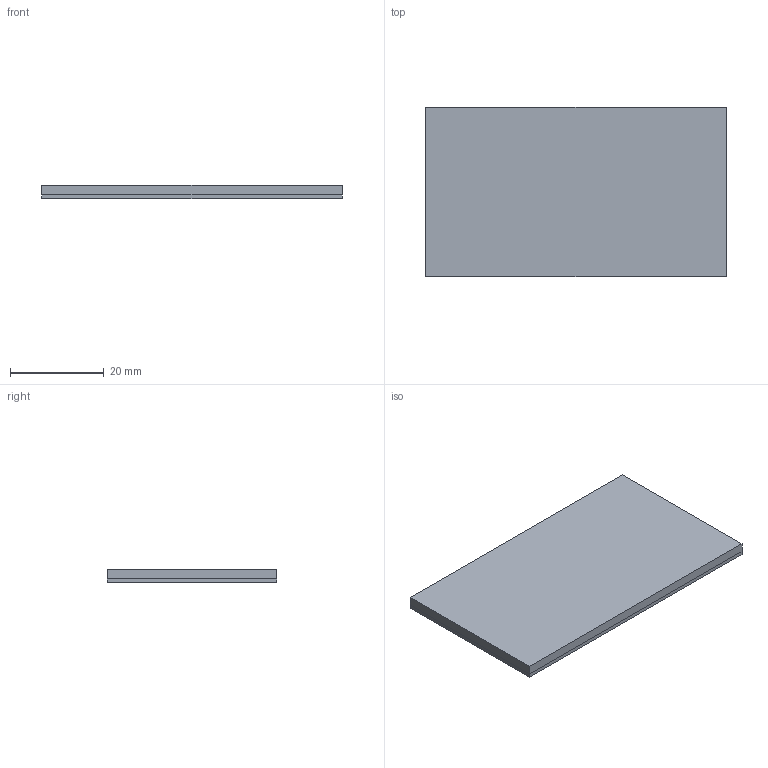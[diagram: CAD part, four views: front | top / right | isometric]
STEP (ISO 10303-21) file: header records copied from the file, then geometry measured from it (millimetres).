
FILE_DESCRIPTION(('Open CASCADE Model'),'2;1');
FILE_NAME('Open CASCADE Shape Model','2026-09-06T11:46:00',('Author'),( 'Open CASCADE'),'Open CASCADE STEP processor 7.7','Open CASCADE 7.7' ,'Unknown');
FILE_SCHEMA(('AUTOMOTIVE_DESIGN { 1 0 10303 214 1 1 1 1 }'));
Length unit declared in the file: millimetre
Products named in the file (6): C04_rear_letter_bond; R8_skin; R8_skin_part; R8_substrate; R8_substrate_part
Assembly tree (5 placements, depth 4):
  C04_rear_letter_bond
    C04_rear_letter_bond
      R8_skin
        R8_skin_part
      R8_substrate
        R8_substrate_part
Bounding box: 64 x 36 x 2.8 mm (x, y, z)
Volume: 6285.3 mm3; surface area: 10042.7 mm2
Topology: 2 solids, 2 shells, 10113 faces, 30192 edges, 20128 vertices
Faces by surface type: plane 10105, cylinder 8
Entity records: 725193 total; most frequent: CARTESIAN_POINT 120873, DIRECTION 110795, LINE 90512, VECTOR 90512, ORIENTED_EDGE 60384, PCURVE 60384, DEFINITIONAL_REPRESENTATION 60384, EDGE_CURVE 30192
